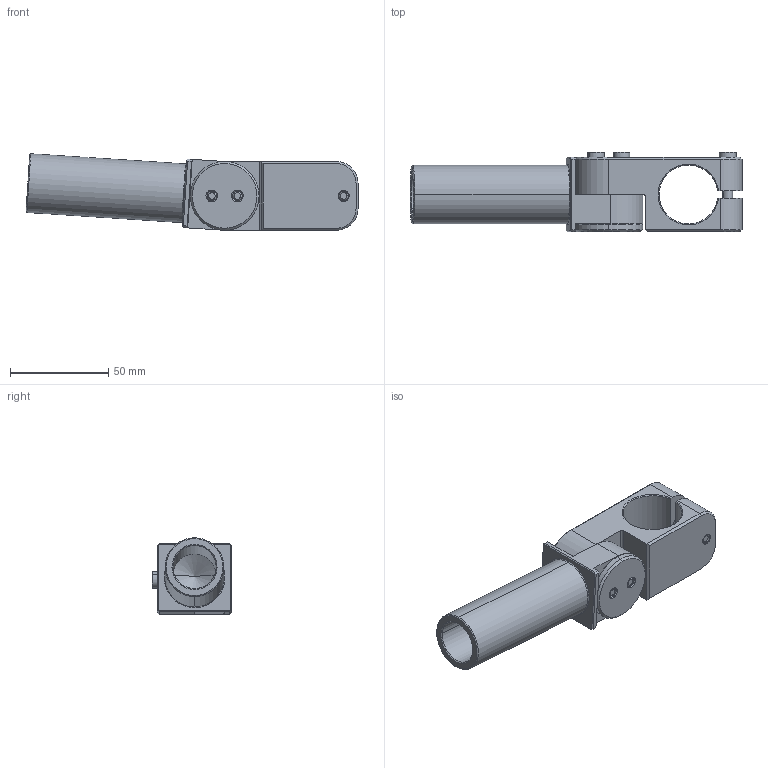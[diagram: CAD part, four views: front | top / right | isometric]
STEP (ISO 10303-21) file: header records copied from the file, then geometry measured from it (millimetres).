
FILE_DESCRIPTION (( 'STEP AP214' ), '1' );
FILE_NAME ('SEAH-3030L80.STEP', '2019-11-11T03:43:12', ( '微软用户' ), ( '微软中国' ), 'SwSTEP 2.0', 'SolidWorks 2016', '' );
FILE_SCHEMA (( 'AUTOMOTIVE_DESIGN' ));
Length unit declared in the file: millimetre
Products named in the file (1): SEAH-3030L80
Bounding box: 169.23 x 40.6 x 39 mm (x, y, z)
Volume: 112712.6 mm3; surface area: 40975.5 mm2
Topology: 9 solids, 9 shells, 778 faces, 2176 edges, 1420 vertices
Faces by surface type: plane 651, cylinder 64, cone 53, bspline 10
Entity records: 34786 total; most frequent: CARTESIAN_POINT 5482, DIRECTION 4428, ORIENTED_EDGE 4348, EDGE_CURVE 2174, AXIS2_PLACEMENT_3D 1509, VERTEX_POINT 1420, LINE 1410, VECTOR 1410
